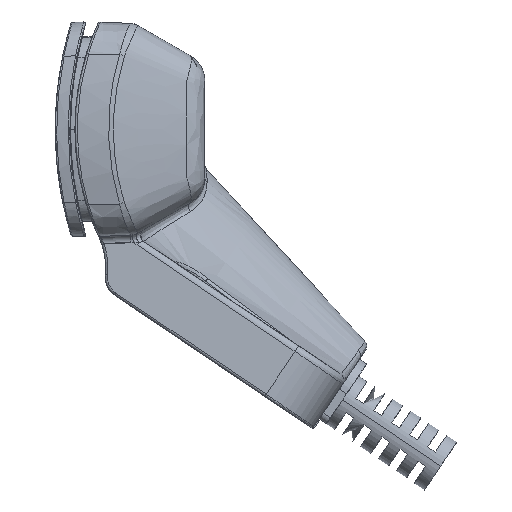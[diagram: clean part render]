
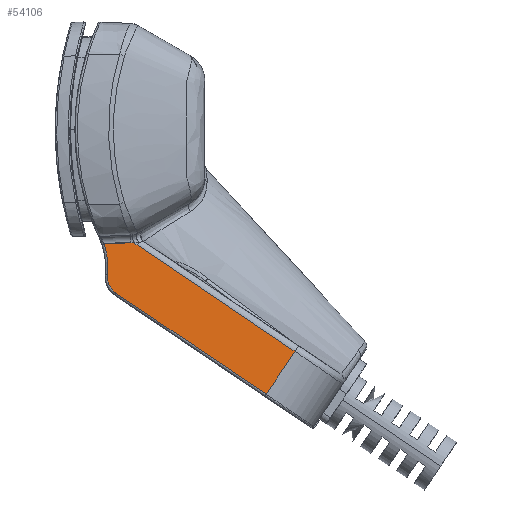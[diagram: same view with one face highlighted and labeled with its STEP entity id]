
A CAD part, left-side view. The second image highlights one B-rep face of the part: STEP entity #54106.
In plain terms, the highlighted planar face has unit normal (-0.997, -0.043, 0.065) as drawn and (-0.997, 0.044, -0.065) by its records, which use the part's own axes.
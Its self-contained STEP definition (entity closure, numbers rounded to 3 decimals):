
#1028 = DIRECTION ( 'NONE',  ( 0., 0.829, 0.559 ) ) ;
#2474 = CARTESIAN_POINT ( 'NONE',  ( -42.763, 4.663, 18.714 ) ) ;
#2769 = CARTESIAN_POINT ( 'NONE',  ( -42.416, 7.694, 15.406 ) ) ;
#2982 = CARTESIAN_POINT ( 'NONE',  ( -42.863, 4.511, 20.16 ) ) ;
#3196 = VERTEX_POINT ( 'NONE', #16079 ) ;
#4628 = CARTESIAN_POINT ( 'NONE',  ( -42.436, 7.722, 15.726 ) ) ;
#4821 = EDGE_CURVE ( 'NONE', #3196, #38786, #43705, .T. ) ;
#4921 = VERTEX_POINT ( 'NONE', #2982 ) ;
#5288 = EDGE_CURVE ( 'NONE', #22596, #4921, #50949, .T. ) ;
#6394 = EDGE_CURVE ( 'NONE', #35238, #29340, #46004, .T. ) ;
#6665 = DIRECTION ( 'NONE',  ( 0.997, -0.044, 0.065 ) ) ;
#6776 = CARTESIAN_POINT ( 'NONE',  ( -42.416, 30.493, 30.784 ) ) ;
#7529 = DIRECTION ( 'NONE',  ( 0.065, 0., -0.998 ) ) ;
#7591 = DIRECTION ( 'NONE',  ( 0., -0.829, -0.559 ) ) ;
#7704 = VERTEX_POINT ( 'NONE', #4628 ) ;
#7895 = VECTOR ( 'NONE', #1028, 1000. ) ;
#8309 = ORIENTED_EDGE ( 'NONE', *, *, #53752, .T. ) ;
#10184 = CARTESIAN_POINT ( 'NONE',  ( -42.975, 4.836, 22.108 ) ) ;
#13312 = ORIENTED_EDGE ( 'NONE', *, *, #63077, .T. ) ;
#15201 = CARTESIAN_POINT ( 'NONE',  ( -42.416, 8.107, 15.685 ) ) ;
#15415 = CARTESIAN_POINT ( 'NONE',  ( -42.934, 4.403, 21.18 ) ) ;
#16079 = CARTESIAN_POINT ( 'NONE',  ( -42.416, 8.607, 16.022 ) ) ;
#16468 = EDGE_LOOP ( 'NONE', ( #41740, #36554, #8309, #22628, #60869, #63534, #38403, #13312 ) ) ;
#16792 = FACE_OUTER_BOUND ( 'NONE', #16468, .T. ) ;
#17397 = DIRECTION ( 'NONE',  ( 0., -0.829, -0.559 ) ) ;
#17903 = CARTESIAN_POINT ( 'NONE',  ( -42.975, 5.686, 22.682 ) ) ;
#22596 = VERTEX_POINT ( 'NONE', #56097 ) ;
#22628 = ORIENTED_EDGE ( 'NONE', *, *, #28189, .T. ) ;
#25574 =( BOUNDED_CURVE ( )  B_SPLINE_CURVE ( 3, ( #34867, #15415, #10184, #39641 ),
 .UNSPECIFIED., .F., .F. ) 
 B_SPLINE_CURVE_WITH_KNOTS ( ( 4, 4 ),
 ( 2.059, 3.142 ),
 .UNSPECIFIED. ) 
 CURVE ( )  GEOMETRIC_REPRESENTATION_ITEM ( )  RATIONAL_B_SPLINE_CURVE ( ( 1., 0.905, 0.905, 1. ) ) 
 REPRESENTATION_ITEM ( '' )  );
#28189 = EDGE_CURVE ( 'NONE', #32739, #35238, #47728, .T. ) ;
#29340 = VERTEX_POINT ( 'NONE', #6776 ) ;
#32398 = CARTESIAN_POINT ( 'NONE',  ( -42.606, 4.06, 15.886 ) ) ;
#32706 = VECTOR ( 'NONE', #32989, 1000. ) ;
#32739 = VERTEX_POINT ( 'NONE', #17903 ) ;
#32752 = VECTOR ( 'NONE', #17397, 1000. ) ;
#32989 = DIRECTION ( 'NONE',  ( 0.078, 0.557, -0.827 ) ) ;
#34853 = CARTESIAN_POINT ( 'NONE',  ( -42.43, 7.851, 15.721 ) ) ;
#34867 = CARTESIAN_POINT ( 'NONE',  ( -42.863, 4.511, 20.16 ) ) ;
#35238 = VERTEX_POINT ( 'NONE', #52183 ) ;
#36554 = ORIENTED_EDGE ( 'NONE', *, *, #5288, .T. ) ;
#37447 = CARTESIAN_POINT ( 'NONE',  ( -42.416, 8.607, 16.022 ) ) ;
#37613 = CARTESIAN_POINT ( 'NONE',  ( -42.676, 4.511, 17.269 ) ) ;
#38262 = VECTOR ( 'NONE', #64391, 1000. ) ;
#38403 = ORIENTED_EDGE ( 'NONE', *, *, #4821, .T. ) ;
#38786 = VERTEX_POINT ( 'NONE', #59578 ) ;
#39009 = VECTOR ( 'NONE', #7591, 1000. ) ;
#39641 = CARTESIAN_POINT ( 'NONE',  ( -42.975, 5.686, 22.682 ) ) ;
#41406 = LINE ( 'NONE', #53485, #38262 ) ;
#41619 = CARTESIAN_POINT ( 'NONE',  ( -42.975, 26.492, 36.715 ) ) ;
#41740 = ORIENTED_EDGE ( 'NONE', *, *, #62932, .T. ) ;
#41783 = PLANE ( 'NONE',  #43228 ) ;
#43214 = CARTESIAN_POINT ( 'NONE',  ( -42.344, 31.008, 30.019 ) ) ;
#43228 = AXIS2_PLACEMENT_3D ( 'NONE', #57594, #6665, #7529 ) ;
#43705 = LINE ( 'NONE', #2769, #39009 ) ;
#44667 = CARTESIAN_POINT ( 'NONE',  ( -42.423, 7.979, 15.707 ) ) ;
#46004 = LINE ( 'NONE', #43214, #32706 ) ;
#46038 = LINE ( 'NONE', #37447, #32752 ) ;
#47728 = LINE ( 'NONE', #41619, #7895 ) ;
#49946 = CARTESIAN_POINT ( 'NONE',  ( -42.436, 7.722, 15.726 ) ) ;
#50737 = EDGE_CURVE ( 'NONE', #29340, #3196, #46038, .T. ) ;
#50949 =( BOUNDED_CURVE ( )  B_SPLINE_CURVE ( 3, ( #32398, #37613, #2474, #54054 ),
 .UNSPECIFIED., .F., .F. ) 
 B_SPLINE_CURVE_WITH_KNOTS ( ( 4, 4 ),
 ( 0.662, 1.082 ),
 .UNSPECIFIED. ) 
 CURVE ( )  GEOMETRIC_REPRESENTATION_ITEM ( )  RATIONAL_B_SPLINE_CURVE ( ( 1., 0.985, 0.985, 1. ) ) 
 REPRESENTATION_ITEM ( '' )  );
#52183 = CARTESIAN_POINT ( 'NONE',  ( -42.975, 26.492, 36.715 ) ) ;
#53485 = CARTESIAN_POINT ( 'NONE',  ( -41.284, 32.497, 14.645 ) ) ;
#53623 = B_SPLINE_CURVE_WITH_KNOTS ( 'NONE', 3,
 ( #15201, #44667, #34853, #49946 ),
 .UNSPECIFIED., .F., .F.,
 ( 4, 4 ),
 ( 0., 0. ),
 .UNSPECIFIED. ) ;
#53752 = EDGE_CURVE ( 'NONE', #4921, #32739, #25574, .T. ) ;
#54054 = CARTESIAN_POINT ( 'NONE',  ( -42.863, 4.511, 20.16 ) ) ;
#54106 = ADVANCED_FACE ( 'NONE', ( #16792 ), #41783, .F. ) ;
#56097 = CARTESIAN_POINT ( 'NONE',  ( -42.606, 4.06, 15.886 ) ) ;
#57594 = CARTESIAN_POINT ( 'NONE',  ( -43., 33.772, 42.016 ) ) ;
#59578 = CARTESIAN_POINT ( 'NONE',  ( -42.416, 8.107, 15.685 ) ) ;
#60869 = ORIENTED_EDGE ( 'NONE', *, *, #6394, .T. ) ;
#62932 = EDGE_CURVE ( 'NONE', #7704, #22596, #41406, .T. ) ;
#63077 = EDGE_CURVE ( 'NONE', #38786, #7704, #53623, .T. ) ;
#63534 = ORIENTED_EDGE ( 'NONE', *, *, #50737, .T. ) ;
#64391 = DIRECTION ( 'NONE',  ( -0.046, -0.998, 0.044 ) ) ;
